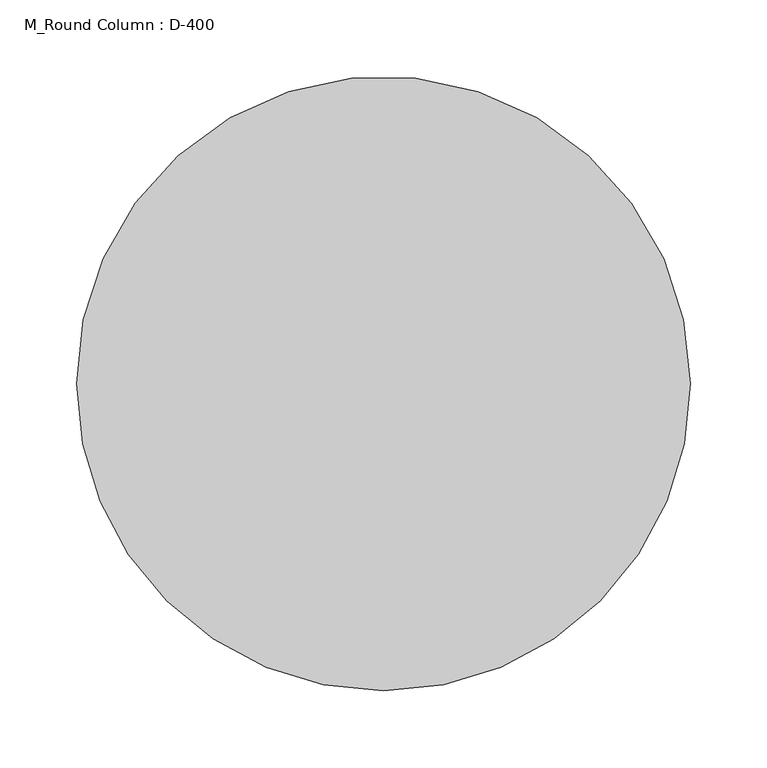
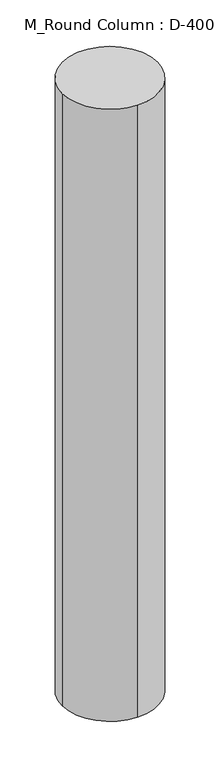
"""IFC4 building model written with IfcOpenShell, lengths in millimetres: column geometry, M_Round Column : D-400."""

from ifc_helpers import new_model, si_unit, point, frame, origin, origin_2d, place, context, project, spatial, circle_curve, trimmed, segment, composite_curve, outline, extrude, source, transform, mapped, element, save


def m_round_column_d_400_48e12016(model_context):
    return source(origin(), model_context, "Body", "SweptSolid", [
        extrude(outline(composite_curve([segment(trimmed(circle_curve(origin_2d(), 200.0), [point((200.0, 0.0))], [point((0.0, -200.0))], False, "CARTESIAN"), True, "CONTINUOUS"), segment(trimmed(circle_curve(origin_2d(), 200.0), [point((0.0, -200.0))], [point((-200.0, 0.0))], False, "CARTESIAN"), True, "CONTINUOUS"), segment(trimmed(circle_curve(origin_2d(), 200.0), [point((-200.0, 0.0))], [point((200.0, 0.0))], False, "CARTESIAN"), True, "CONTINUOUS")], self_intersect=False)), frame((0.0, 0.0, 7920.0), z_axis=(0.0, 0.0, 1.0), x_axis=(1.0, 0.0, 0.0)), (0.0, 0.0, 1.0), 2720.0),
    ])


if __name__ == "__main__":
    model = new_model("IFC4")
    model_context = context("Model", 3, world=origin())
    ifc_project = project(units=[si_unit("LENGTHUNIT", "METRE", prefix="MILLI")], contexts=[model_context])
    site = spatial("IfcSite", under=ifc_project)
    building = spatial("IfcBuilding", under=site)
    placement = place(None, origin())
    m_round_column_d_400_shape = m_round_column_d_400_48e12016(model_context)
    element("IfcColumn", 1, ObjectType="M_Round Column : D-400", at=placement, inside=building, context=model_context, shape_type="MappedRepresentation", body=[
        mapped(m_round_column_d_400_shape, transform((0.0, 0.0, 0.0), x_axis=(1.0, 0.0, 0.0), y_axis=(0.0, 1.0, 0.0), z_axis=(0.0, 0.0, 1.0))),
    ])
    save(model, "model.ifc")
